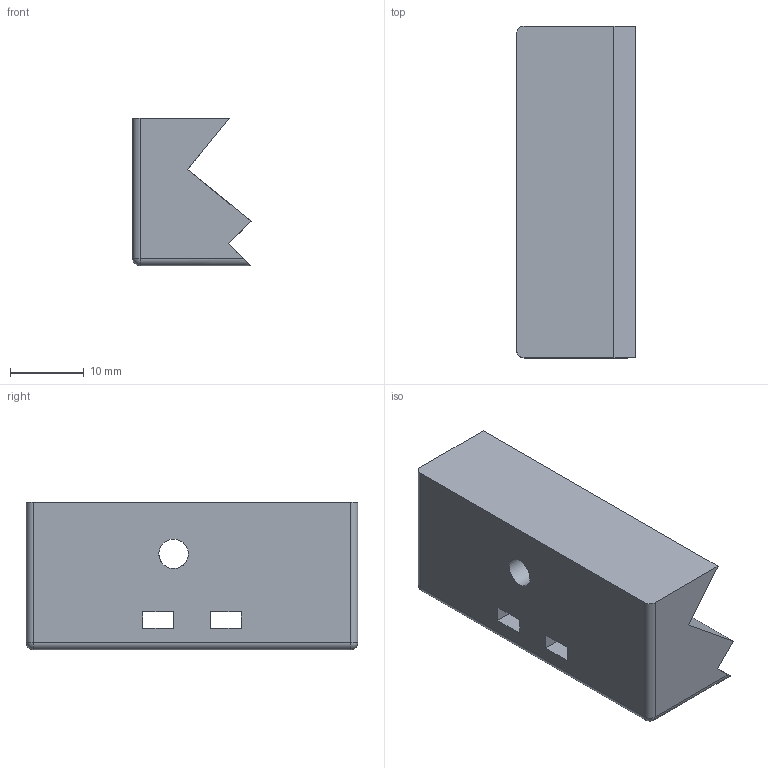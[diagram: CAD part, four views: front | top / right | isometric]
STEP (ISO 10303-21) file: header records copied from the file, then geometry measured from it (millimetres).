
FILE_DESCRIPTION(('FreeCAD Model'),'2;1');
FILE_NAME('/home/grant/Documents/CAD Files/WIP folder/PBW Project Folder/V1.1 STL''s & Steps/Left Block V1.1.step','2020-07-30T16:38:21',('Author'),( ''),'Open CASCADE STEP processor 7.3','FreeCAD','Unknown');
FILE_SCHEMA(('AUTOMOTIVE_DESIGN { 1 0 10303 214 1 1 1 1 }'));
Length unit declared in the file: millimetre
Products named in the file (1): BaseFeature001
Bounding box: 16.08 x 45 x 20 mm (x, y, z)
Volume: 10461.5 mm3; surface area: 4324.9 mm2
Topology: 1 solids, 1 shells, 26 faces, 77 edges, 48 vertices
Faces by surface type: plane 18, cylinder 6, sphere 2
Full cylindrical faces by diameter (mm): 4 x1
Entity records: 1899 total; most frequent: CARTESIAN_POINT 368, DIRECTION 284, LINE 198, VECTOR 198, ORIENTED_EDGE 150, PCURVE 150, DEFINITIONAL_REPRESENTATION 150, EDGE_CURVE 75
